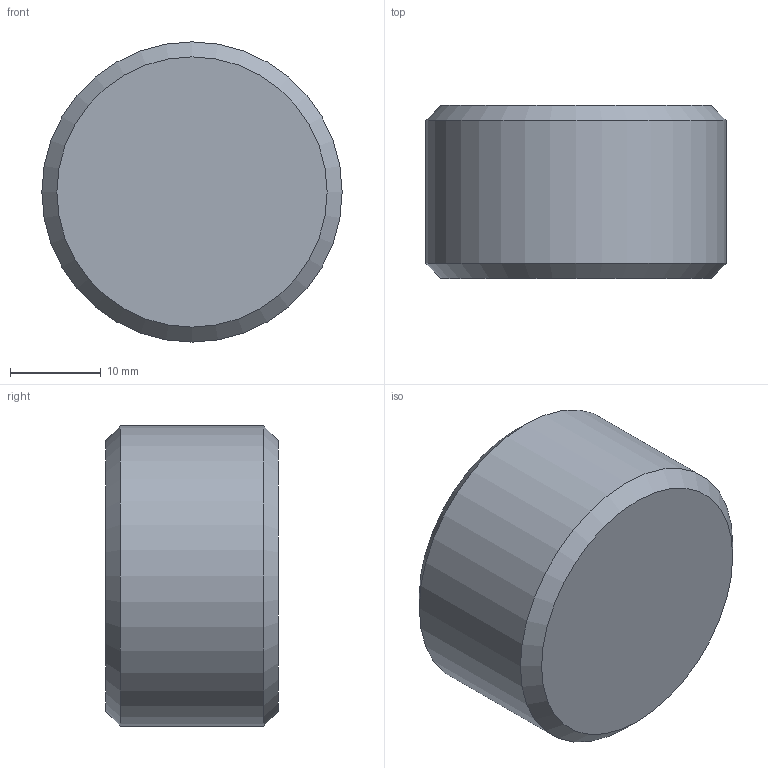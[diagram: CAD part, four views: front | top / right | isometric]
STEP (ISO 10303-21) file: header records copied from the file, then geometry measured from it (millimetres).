
FILE_DESCRIPTION(/* description */ (''),/* implementation_level */ '2;1');
FILE_NAME(/* name */ 'C:/Users/drich/Desktop/cad/Plugs/NPT Pipe Plugs/Dry Seal 3_4 Taper/Stainless Steel/SSD-1 v1.step',/* time_stamp */ '2020-01-10T11:33:12-06:00',/* author */ (''),/* organization */ (''),/* preprocessor_version */ 'ST-DEVELOPER v18',/* originating_system */ 'Autodesk Translation Framework v8.12.0.6',/* authorisation */ '');
FILE_SCHEMA (('AUTOMOTIVE_DESIGN { 1 0 10303 214 3 1 1 }'));
Length unit declared in the file: inch
Products named in the file (1): SSD-1
Bounding box: 33.07 x 19.05 x 33.07 mm (x, y, z)
Volume: 13555.4 mm3; surface area: 4082.9 mm2
Topology: 1 solids, 1 shells, 13 faces, 35 edges, 25 vertices
Faces by surface type: plane 9, cone 3, cylinder 1
Full cylindrical faces by diameter (mm): 33.069 x1
Entity records: 439 total; most frequent: CARTESIAN_POINT 98, ORIENTED_EDGE 70, DIRECTION 58, EDGE_CURVE 35, VERTEX_POINT 25, AXIS2_PLACEMENT_3D 21, LINE 16, VECTOR 16
